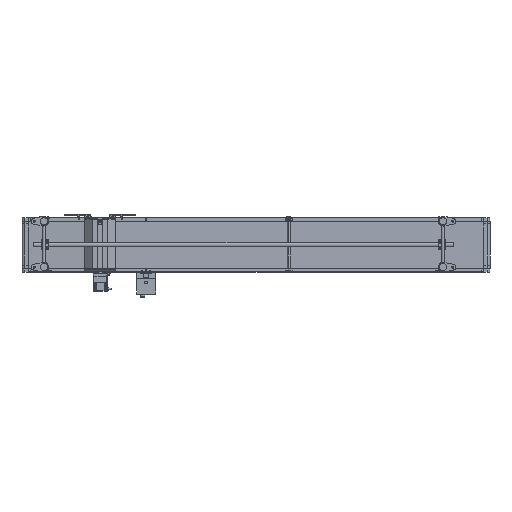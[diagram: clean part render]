
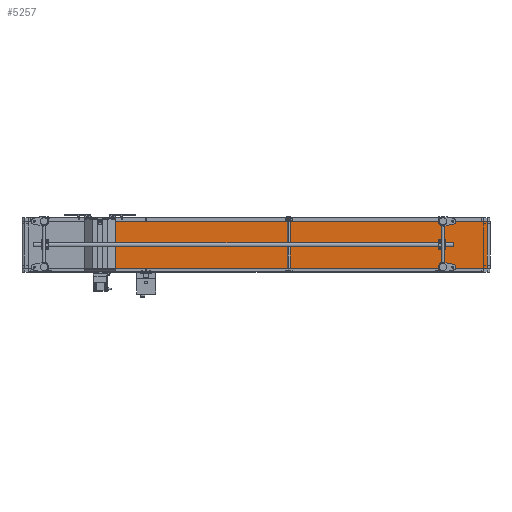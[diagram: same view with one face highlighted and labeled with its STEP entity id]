
A CAD part, front view. The second image highlights one B-rep face of the part: STEP entity #5257.
In plain terms, the highlighted planar face has unit normal (0.008, -1, 0).
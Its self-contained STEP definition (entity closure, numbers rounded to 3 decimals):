
#5257=ADVANCED_FACE('',(#17756),#17755,.F.);
#17755=PLANE('',#41775);
#17756=FACE_OUTER_BOUND('',#41776,.T.);
#41772=CARTESIAN_POINT('',(2993.143,-33.92,-160.));
#41773=DIRECTION('',(-0.008,1.,0.));
#41774=DIRECTION('',(-1.,-0.008,0.));
#41775=AXIS2_PLACEMENT_3D('',#41772,#41773,#41774);
#41776=EDGE_LOOP('',(#57175,#57176,#57177,#57178));
#57175=ORIENTED_EDGE('',*,*,#67301,.T.);
#57176=ORIENTED_EDGE('',*,*,#67324,.F.);
#57177=ORIENTED_EDGE('',*,*,#67285,.F.);
#57178=ORIENTED_EDGE('',*,*,#67276,.T.);
#67276=EDGE_CURVE('',#87352,#87345,#87353,.T.);
#67285=EDGE_CURVE('',#87352,#87413,#87414,.T.);
#67301=EDGE_CURVE('',#87345,#87518,#87525,.T.);
#67324=EDGE_CURVE('',#87413,#87518,#87682,.T.);
#87345=VERTEX_POINT('',#123207);
#87352=VERTEX_POINT('',#123212);
#87353=LINE('',#123213,#123214);
#87413=VERTEX_POINT('',#123251);
#87414=LINE('',#123252,#123253);
#87518=VERTEX_POINT('',#123318);
#87525=LINE('',#123323,#123324);
#87682=LINE('',#123417,#123418);
#123207=CARTESIAN_POINT('',(546.701,-53.466,-150.));
#123212=CARTESIAN_POINT('',(546.701,-53.466,150.));
#123213=CARTESIAN_POINT('',(546.701,-53.466,150.));
#123214=VECTOR('',#123215,300.);
#123215=DIRECTION('',(0.,0.,-1.));
#123251=CARTESIAN_POINT('',(2983.144,-33.999,150.));
#123252=CARTESIAN_POINT('',(546.701,-53.466,150.));
#123253=VECTOR('',#123254,2436.521);
#123254=DIRECTION('',(1.,0.008,0.));
#123318=CARTESIAN_POINT('',(2983.144,-33.999,-150.));
#123323=CARTESIAN_POINT('',(546.701,-53.466,-150.));
#123324=VECTOR('',#123325,2436.521);
#123325=DIRECTION('',(1.,0.008,0.));
#123417=CARTESIAN_POINT('',(2983.144,-33.999,150.));
#123418=VECTOR('',#123419,300.);
#123419=DIRECTION('',(0.,0.,-1.));
